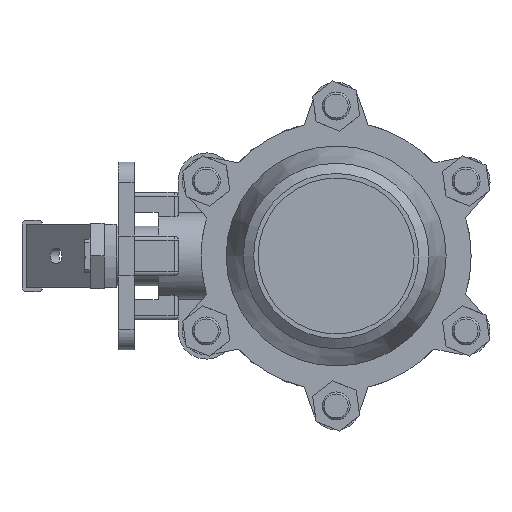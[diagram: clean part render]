
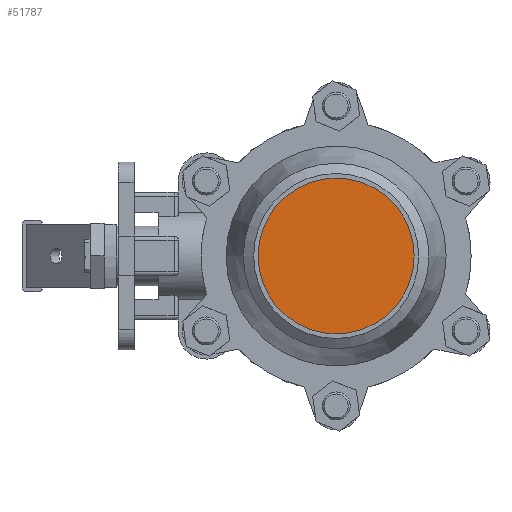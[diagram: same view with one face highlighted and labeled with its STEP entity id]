
A CAD part, left-side view. The second image highlights one B-rep face of the part: STEP entity #51787.
In plain terms, the highlighted planar face has unit normal (-1, 0, 0).
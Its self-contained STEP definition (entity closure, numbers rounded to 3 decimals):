
#51756=CARTESIAN_POINT('',(-105.0,0.,39.));
#51757=VERTEX_POINT('',#51756);
#51758=CARTESIAN_POINT('',(-105.0,0.,0.));
#51759=DIRECTION('',(-1.0,0.0,0.0));
#51760=DIRECTION('',(0.0,0.0,-1.0));
#51761=AXIS2_PLACEMENT_3D('',#51758,#51759,#51760);
#51762=CIRCLE('',#51761,39.);
#51763=EDGE_CURVE('',#51757,#51757,#51762,.T.);
#51779=CARTESIAN_POINT('',(-105.0,0.,0.));
#51780=DIRECTION('',(1.0,0.0,0.0));
#51781=DIRECTION('',(0.0,0.0,-1.0));
#51782=AXIS2_PLACEMENT_3D('',#51779,#51780,#51781);
#51783=PLANE('',#51782);
#51784=ORIENTED_EDGE('',*,*,#51763,.T.);
#51785=EDGE_LOOP('',(#51784));
#51786=FACE_OUTER_BOUND('',#51785,.T.);
#51787=ADVANCED_FACE('',(#51786),#51783,.F.);
